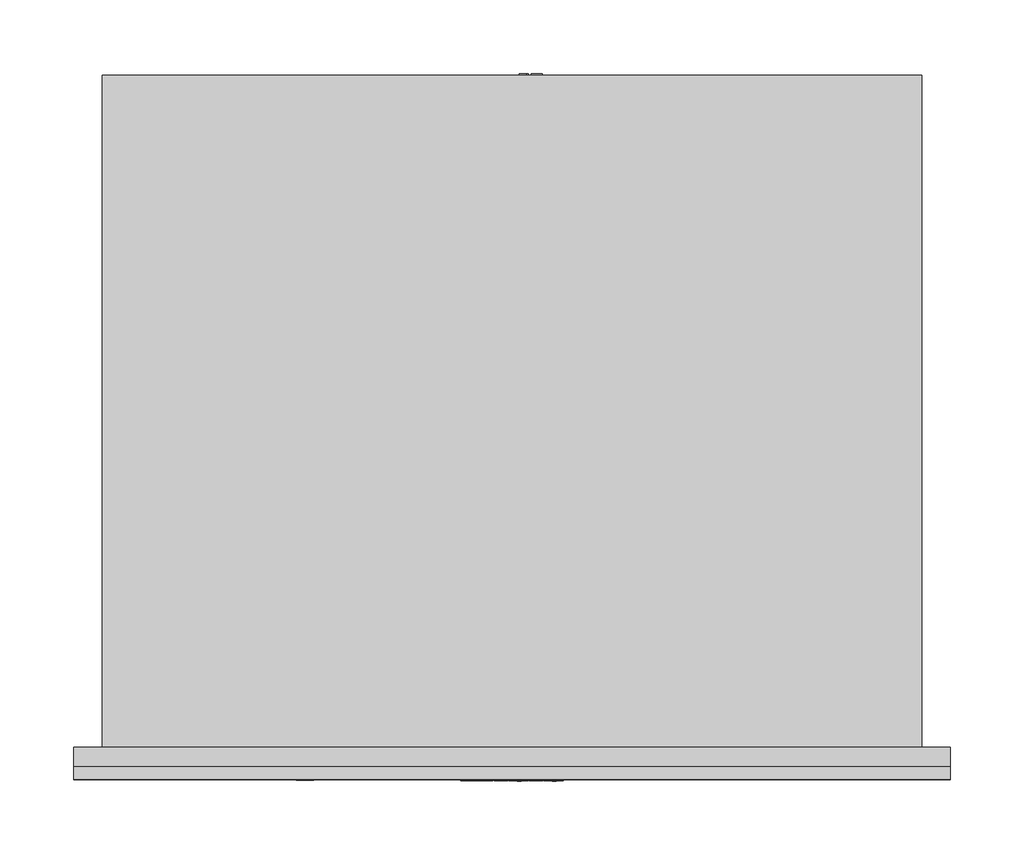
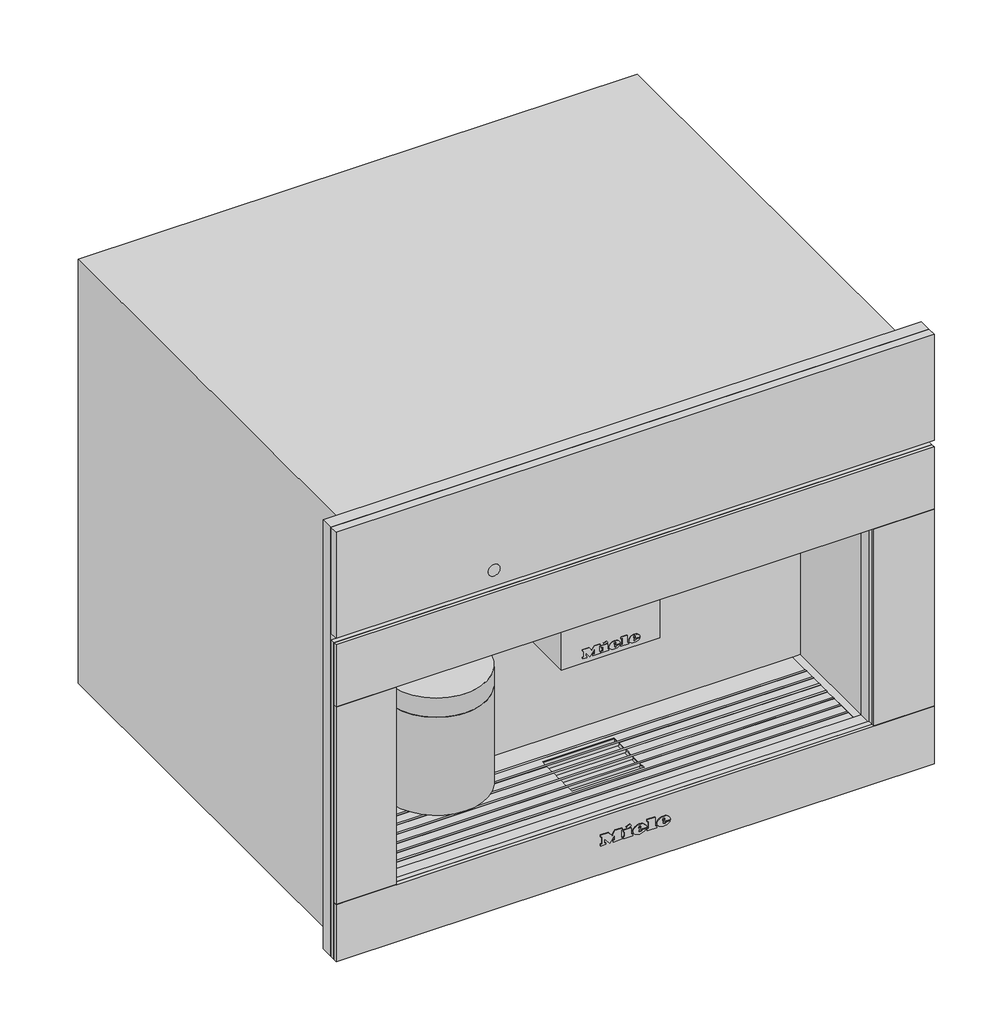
# Not in any storey: 1 proxy.
"""IFC4 building model written with IfcOpenShell, lengths in millimetres."""

from ifc_helpers import new_model, si_unit, origin, place, context, project, spatial, transform, mapped, element, save
from components import specialty_equipment_f7a23d79

model = new_model("IFC4")

# Units and contexts
model_context = context("Model", 3, world=origin())
ifc_project = project(units=[si_unit("LENGTHUNIT", "METRE", prefix="MILLI")], contexts=[model_context])

# Site, building
site = spatial("IfcSite", under=ifc_project)
building = spatial("IfcBuilding", under=site)

# Proxy
placement = place(None, origin())
specialty_equipment_shape = specialty_equipment_f7a23d79(model_context)
element("IfcBuildingElementProxy", 1, Name="12642270_GB_CVA7440_PEBE : 29744050_GB_12642270_CVA7440_PEBE", ObjectType="12642270_GB_CVA7440_PEBE : 29744050_GB_12642270_CVA7440_PEBE", at=placement, inside=building, context=model_context, shape_type="MappedRepresentation", body=[
    mapped(specialty_equipment_shape, transform((0.0, 0.0, 0.0), x_axis=(1.0, 0.0, 0.0), y_axis=(0.0, 1.0, 0.0), z_axis=(0.0, 0.0, 1.0))),
])

save(model, "model.ifc")
